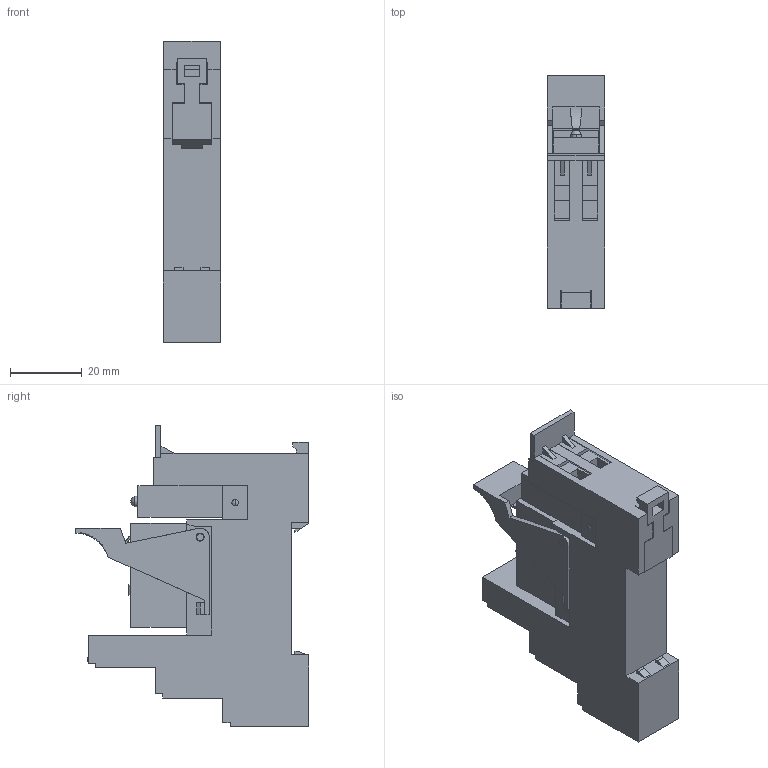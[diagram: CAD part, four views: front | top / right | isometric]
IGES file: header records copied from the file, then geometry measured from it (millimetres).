
Start section: SolidWorks IGES file using analytic representation for surfaces
Global section: file name: D:\X - Arquivos\PROEX\Empresas\P11 - METALTEX\01 - Produtos\IGES\6ª remessa\5ª etapa\PRT7-2 - PRX-2R - PRR-1R.IGS; native system: SolidWorks 2012; preprocessor: SolidWorks 2012; author: Usuario; date: 190327.094548; units: millimetre
Bounding box: 15.9 x 64.75 x 83.8 mm (x, y, z)
Surface area: 17332.2 mm2 (no closed solid volume)
Topology: 0 solids, 0 shells, 781 faces, 6323 edges, 6323 vertices
Faces by surface type: bspline 725, revolution 56
